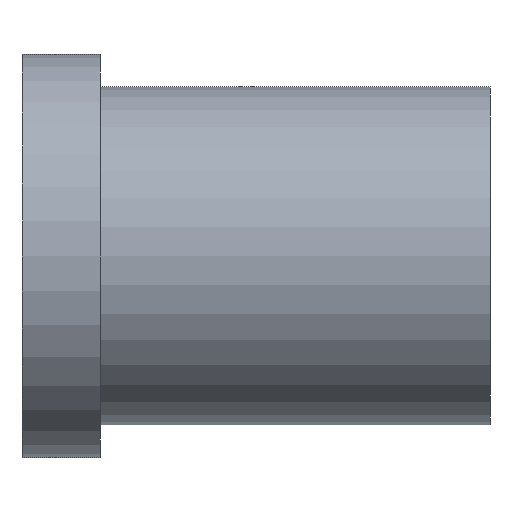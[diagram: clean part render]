
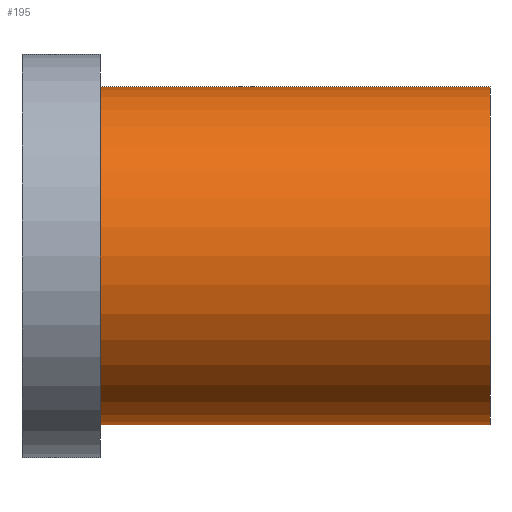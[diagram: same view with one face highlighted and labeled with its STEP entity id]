
A CAD part, left-side view. The second image highlights one B-rep face of the part: STEP entity #195.
In plain terms, the highlighted cylindrical face has radius 13 mm (diameter 26 mm), a full revolution.
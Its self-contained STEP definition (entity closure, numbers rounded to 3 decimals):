
#32=ORIENTED_EDGE('',*,*,#50,.T.);
#33=ORIENTED_EDGE('',*,*,#49,.F.);
#49=EDGE_CURVE('',#59,#59,#69,.T.);
#50=EDGE_CURVE('',#60,#60,#70,.T.);
#59=VERTEX_POINT('',#280);
#60=VERTEX_POINT('',#283);
#69=CIRCLE('',#213,13.);
#70=CIRCLE('',#215,13.);
#82=EDGE_LOOP('',(#32));
#83=EDGE_LOOP('',(#33));
#102=FACE_BOUND('',#82,.T.);
#103=FACE_BOUND('',#83,.T.);
#117=CYLINDRICAL_SURFACE('',#214,13.);
#195=ADVANCED_FACE('',(#102,#103),#117,.T.);
#213=AXIS2_PLACEMENT_3D('',#279,#241,#242);
#214=AXIS2_PLACEMENT_3D('',#281,#243,#244);
#215=AXIS2_PLACEMENT_3D('',#282,#245,#246);
#241=DIRECTION('',(0.,-1.,0.));
#242=DIRECTION('',(0.,0.,-1.));
#243=DIRECTION('',(0.,-1.,0.));
#244=DIRECTION('',(0.,0.,-1.));
#245=DIRECTION('',(0.,-1.,0.));
#246=DIRECTION('',(0.,0.,-1.));
#279=CARTESIAN_POINT('',(0.,0.,0.));
#280=CARTESIAN_POINT('',(0.,0.,-13.));
#281=CARTESIAN_POINT('',(0.,0.,0.));
#282=CARTESIAN_POINT('',(0.,30.,0.));
#283=CARTESIAN_POINT('',(0.,30.,-13.));
